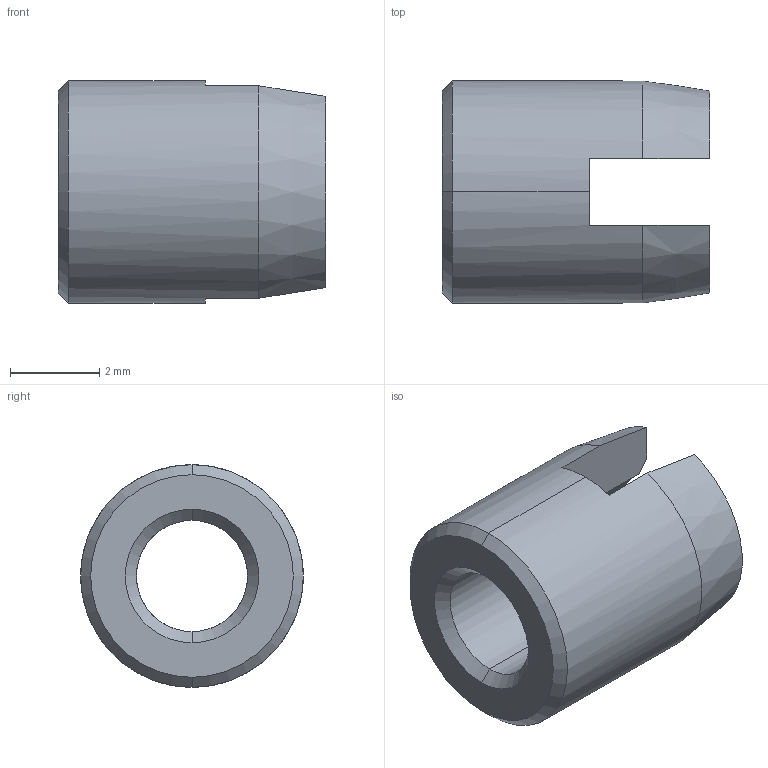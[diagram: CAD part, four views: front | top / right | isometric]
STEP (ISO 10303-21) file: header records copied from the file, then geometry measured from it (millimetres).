
FILE_DESCRIPTION (( 'STEP AP203' ), '1' );
FILE_NAME ('FSUK-SCR-M03.STEP', '2021-04-14T09:47:06', ( '' ), ( '' ), 'SwSTEP 2.0', 'SolidWorks 2021', '' );
FILE_SCHEMA (( 'CONFIG_CONTROL_DESIGN' ));
Length unit declared in the file: millimetre
Products named in the file (1): FSUK-SCR-M03
Bounding box: 6 x 5 x 5 mm (x, y, z)
Volume: 75 mm3; surface area: 160.7 mm2
Topology: 1 solids, 1 shells, 21 faces, 56 edges, 36 vertices
Faces by surface type: plane 9, cone 8, cylinder 4
Entity records: 751 total; most frequent: CARTESIAN_POINT 138, DIRECTION 116, ORIENTED_EDGE 112, EDGE_CURVE 56, AXIS2_PLACEMENT_3D 46, VERTEX_POINT 36, LINE 24, VECTOR 24
